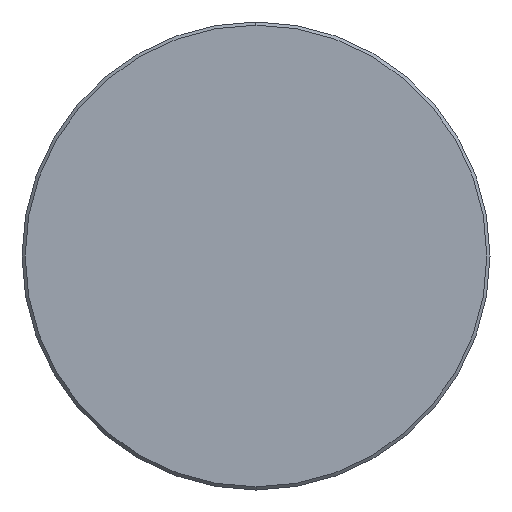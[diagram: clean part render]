
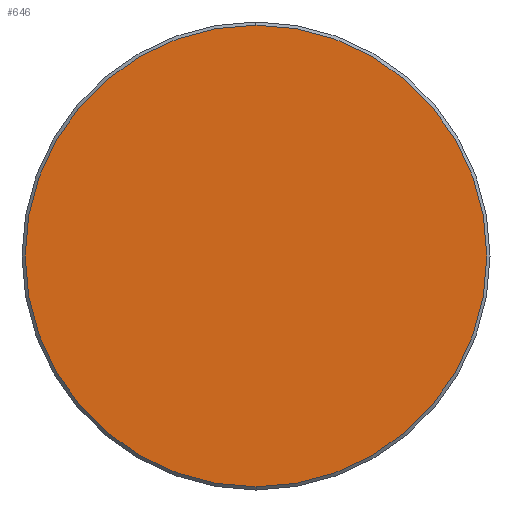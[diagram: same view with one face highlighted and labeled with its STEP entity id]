
A CAD part, left-side view. The second image highlights one B-rep face of the part: STEP entity #646.
In plain terms, the highlighted planar face has unit normal (-1, 0, 0).
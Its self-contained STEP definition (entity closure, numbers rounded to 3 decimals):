
#34 = DIRECTION ( 'NONE',  ( 0., 0., -1. ) ) ;
#38 = DIRECTION ( 'NONE',  ( -1., 0., 0. ) ) ;
#127 = CARTESIAN_POINT ( 'NONE',  ( 0., 0., 36.5 ) ) ;
#152 = CARTESIAN_POINT ( 'NONE',  ( 0., 0., 0. ) ) ;
#254 = VERTEX_POINT ( 'NONE', #127 ) ;
#342 = CARTESIAN_POINT ( 'NONE',  ( 0., 0., 0. ) ) ;
#352 = CIRCLE ( 'NONE', #1316, 36.5 ) ;
#361 = EDGE_CURVE ( 'NONE', #831, #254, #1272, .T. ) ;
#646 = ADVANCED_FACE ( 'NONE', ( #1585 ), #1089, .F. ) ;
#831 = VERTEX_POINT ( 'NONE', #1569 ) ;
#907 = DIRECTION ( 'NONE',  ( -1., 0., 0. ) ) ;
#942 = CARTESIAN_POINT ( 'NONE',  ( 0., 0., 0. ) ) ;
#988 = AXIS2_PLACEMENT_3D ( 'NONE', #152, #907, #1054 ) ;
#1054 = DIRECTION ( 'NONE',  ( 0., 0., 1. ) ) ;
#1089 = PLANE ( 'NONE',  #1539 ) ;
#1093 = DIRECTION ( 'NONE',  ( 0., 0., 1. ) ) ;
#1187 = ORIENTED_EDGE ( 'NONE', *, *, #1553, .T. ) ;
#1272 = CIRCLE ( 'NONE', #988, 36.5 ) ;
#1316 = AXIS2_PLACEMENT_3D ( 'NONE', #942, #38, #1093 ) ;
#1527 = DIRECTION ( 'NONE',  ( 1., 0., 0. ) ) ;
#1531 = EDGE_LOOP ( 'NONE', ( #1784, #1187 ) ) ;
#1539 = AXIS2_PLACEMENT_3D ( 'NONE', #342, #1527, #34 ) ;
#1553 = EDGE_CURVE ( 'NONE', #254, #831, #352, .T. ) ;
#1569 = CARTESIAN_POINT ( 'NONE',  ( 0., 0., -36.5 ) ) ;
#1585 = FACE_OUTER_BOUND ( 'NONE', #1531, .T. ) ;
#1784 = ORIENTED_EDGE ( 'NONE', *, *, #361, .T. ) ;
